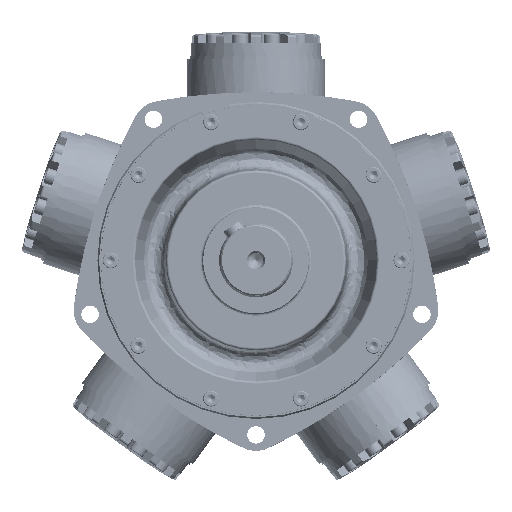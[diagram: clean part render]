
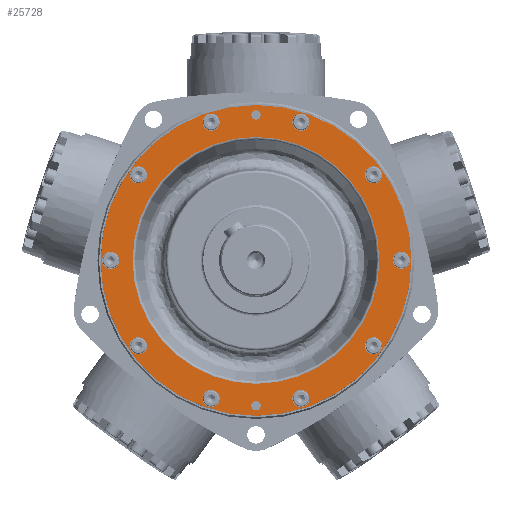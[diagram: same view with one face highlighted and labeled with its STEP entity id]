
A CAD part, top view. The second image highlights one B-rep face of the part: STEP entity #25728.
In plain terms, the highlighted planar face has unit normal (0, 0, 1).
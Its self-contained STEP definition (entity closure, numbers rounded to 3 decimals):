
#24380=CARTESIAN_POINT('',(5.664,174.625,69.152));
#24381=VERTEX_POINT('',#24380);
#24382=CARTESIAN_POINT('',(0.,174.625,69.152));
#24383=DIRECTION('',(0.0,0.0,-1.0));
#24384=DIRECTION('',(1.0,0.0,0.0));
#24385=AXIS2_PLACEMENT_3D('',#24382,#24383,#24384);
#24386=CIRCLE('',#24385,5.664);
#24387=EDGE_CURVE('',#24381,#24381,#24386,.T.);
#24429=CARTESIAN_POINT('',(5.664,-174.625,69.152));
#24430=VERTEX_POINT('',#24429);
#24431=CARTESIAN_POINT('',(0.,-174.625,69.152));
#24432=DIRECTION('',(0.0,0.0,-1.0));
#24433=DIRECTION('',(1.0,0.0,0.0));
#24434=AXIS2_PLACEMENT_3D('',#24431,#24432,#24433);
#24435=CIRCLE('',#24434,5.664);
#24436=EDGE_CURVE('',#24430,#24430,#24435,.T.);
#24487=CARTESIAN_POINT('',(57.151,-175.892,69.152));
#24488=VERTEX_POINT('',#24487);
#24489=CARTESIAN_POINT('',(53.962,-166.078,69.152));
#24490=DIRECTION('',(0.,0.,-1.));
#24491=DIRECTION('',(0.309,-0.951,0.));
#24492=AXIS2_PLACEMENT_3D('',#24489,#24490,#24491);
#24493=CIRCLE('',#24492,10.319);
#24494=EDGE_CURVE('',#24488,#24488,#24493,.T.);
#24556=CARTESIAN_POINT('',(-57.151,-175.892,69.152));
#24557=VERTEX_POINT('',#24556);
#24558=CARTESIAN_POINT('',(-53.962,-166.078,69.152));
#24559=DIRECTION('',(0.,0.,-1.));
#24560=DIRECTION('',(-0.309,-0.951,0.));
#24561=AXIS2_PLACEMENT_3D('',#24558,#24559,#24560);
#24562=CIRCLE('',#24561,10.319);
#24563=EDGE_CURVE('',#24557,#24557,#24562,.T.);
#24617=CARTESIAN_POINT('',(-149.623,-108.707,69.152));
#24618=VERTEX_POINT('',#24617);
#24619=CARTESIAN_POINT('',(-141.275,-102.642,69.152));
#24620=DIRECTION('',(0.,0.,-1.0));
#24621=DIRECTION('',(-0.809,-0.588,0.));
#24622=AXIS2_PLACEMENT_3D('',#24619,#24620,#24621);
#24623=CIRCLE('',#24622,10.319);
#24624=EDGE_CURVE('',#24618,#24618,#24623,.T.);
#24686=CARTESIAN_POINT('',(-184.944,0.,69.152));
#24687=VERTEX_POINT('',#24686);
#24688=CARTESIAN_POINT('',(-174.625,0.,69.152));
#24689=DIRECTION('',(0.0,0.0,-1.0));
#24690=DIRECTION('',(-1.0,0.0,0.0));
#24691=AXIS2_PLACEMENT_3D('',#24688,#24689,#24690);
#24692=CIRCLE('',#24691,10.319);
#24693=EDGE_CURVE('',#24687,#24687,#24692,.T.);
#24747=CARTESIAN_POINT('',(-149.623,108.707,69.152));
#24748=VERTEX_POINT('',#24747);
#24749=CARTESIAN_POINT('',(-141.275,102.642,69.152));
#24750=DIRECTION('',(0.,0.,-1.));
#24751=DIRECTION('',(-0.809,0.588,0.));
#24752=AXIS2_PLACEMENT_3D('',#24749,#24750,#24751);
#24753=CIRCLE('',#24752,10.319);
#24754=EDGE_CURVE('',#24748,#24748,#24753,.T.);
#24816=CARTESIAN_POINT('',(-57.151,175.892,69.152));
#24817=VERTEX_POINT('',#24816);
#24818=CARTESIAN_POINT('',(-53.962,166.078,69.152));
#24819=DIRECTION('',(0.,0.,-1.));
#24820=DIRECTION('',(-0.309,0.951,0.));
#24821=AXIS2_PLACEMENT_3D('',#24818,#24819,#24820);
#24822=CIRCLE('',#24821,10.319);
#24823=EDGE_CURVE('',#24817,#24817,#24822,.T.);
#24877=CARTESIAN_POINT('',(57.151,175.892,69.152));
#24878=VERTEX_POINT('',#24877);
#24879=CARTESIAN_POINT('',(53.962,166.078,69.152));
#24880=DIRECTION('',(0.,0.,-1.));
#24881=DIRECTION('',(0.309,0.951,0.));
#24882=AXIS2_PLACEMENT_3D('',#24879,#24880,#24881);
#24883=CIRCLE('',#24882,10.319);
#24884=EDGE_CURVE('',#24878,#24878,#24883,.T.);
#24946=CARTESIAN_POINT('',(149.623,108.707,69.152));
#24947=VERTEX_POINT('',#24946);
#24948=CARTESIAN_POINT('',(141.275,102.642,69.152));
#24949=DIRECTION('',(0.,0.,-1.));
#24950=DIRECTION('',(0.809,0.588,0.));
#24951=AXIS2_PLACEMENT_3D('',#24948,#24949,#24950);
#24952=CIRCLE('',#24951,10.319);
#24953=EDGE_CURVE('',#24947,#24947,#24952,.T.);
#25015=CARTESIAN_POINT('',(149.623,-108.707,69.152));
#25016=VERTEX_POINT('',#25015);
#25017=CARTESIAN_POINT('',(141.275,-102.642,69.152));
#25018=DIRECTION('',(0.,0.,-1.));
#25019=DIRECTION('',(0.809,-0.588,0.));
#25020=AXIS2_PLACEMENT_3D('',#25017,#25018,#25019);
#25021=CIRCLE('',#25020,10.319);
#25022=EDGE_CURVE('',#25016,#25016,#25021,.T.);
#25076=CARTESIAN_POINT('',(184.944,0.,69.152));
#25077=VERTEX_POINT('',#25076);
#25078=CARTESIAN_POINT('',(174.625,0.,69.152));
#25079=DIRECTION('',(0.0,0.0,-1.0));
#25080=DIRECTION('',(1.0,0.0,0.0));
#25081=AXIS2_PLACEMENT_3D('',#25078,#25079,#25080);
#25082=CIRCLE('',#25081,10.319);
#25083=EDGE_CURVE('',#25077,#25077,#25082,.T.);
#25360=CARTESIAN_POINT('',(0.,186.626,69.152));
#25361=VERTEX_POINT('',#25360);
#25362=CARTESIAN_POINT('',(0.,0.,69.152));
#25363=DIRECTION('',(0.0,0.0,1.0));
#25364=DIRECTION('',(0.0,-1.0,0.0));
#25365=AXIS2_PLACEMENT_3D('',#25362,#25363,#25364);
#25366=CIRCLE('',#25365,186.626);
#25367=EDGE_CURVE('',#25361,#25361,#25366,.T.);
#25658=CARTESIAN_POINT('',(0.,148.273,69.152));
#25659=VERTEX_POINT('',#25658);
#25660=CARTESIAN_POINT('',(0.,0.,69.152));
#25661=DIRECTION('',(0.0,0.0,1.0));
#25662=DIRECTION('',(0.0,-1.0,0.0));
#25663=AXIS2_PLACEMENT_3D('',#25660,#25661,#25662);
#25664=CIRCLE('',#25663,148.273);
#25665=EDGE_CURVE('',#25659,#25659,#25664,.T.);
#25681=CARTESIAN_POINT('',(0.,169.862,69.152));
#25682=DIRECTION('',(0.0,0.0,1.0));
#25683=DIRECTION('',(1.0,0.0,0.0));
#25684=AXIS2_PLACEMENT_3D('',#25681,#25682,#25683);
#25685=PLANE('',#25684);
#25686=ORIENTED_EDGE('',*,*,#25367,.T.);
#25687=EDGE_LOOP('',(#25686));
#25688=FACE_OUTER_BOUND('',#25687,.T.);
#25689=ORIENTED_EDGE('',*,*,#24387,.T.);
#25690=EDGE_LOOP('',(#25689));
#25691=FACE_BOUND('',#25690,.T.);
#25692=ORIENTED_EDGE('',*,*,#24436,.T.);
#25693=EDGE_LOOP('',(#25692));
#25694=FACE_BOUND('',#25693,.T.);
#25695=ORIENTED_EDGE('',*,*,#24494,.T.);
#25696=EDGE_LOOP('',(#25695));
#25697=FACE_BOUND('',#25696,.T.);
#25698=ORIENTED_EDGE('',*,*,#24563,.T.);
#25699=EDGE_LOOP('',(#25698));
#25700=FACE_BOUND('',#25699,.T.);
#25701=ORIENTED_EDGE('',*,*,#24624,.T.);
#25702=EDGE_LOOP('',(#25701));
#25703=FACE_BOUND('',#25702,.T.);
#25704=ORIENTED_EDGE('',*,*,#24693,.T.);
#25705=EDGE_LOOP('',(#25704));
#25706=FACE_BOUND('',#25705,.T.);
#25707=ORIENTED_EDGE('',*,*,#24754,.T.);
#25708=EDGE_LOOP('',(#25707));
#25709=FACE_BOUND('',#25708,.T.);
#25710=ORIENTED_EDGE('',*,*,#24823,.T.);
#25711=EDGE_LOOP('',(#25710));
#25712=FACE_BOUND('',#25711,.T.);
#25713=ORIENTED_EDGE('',*,*,#24884,.T.);
#25714=EDGE_LOOP('',(#25713));
#25715=FACE_BOUND('',#25714,.T.);
#25716=ORIENTED_EDGE('',*,*,#24953,.T.);
#25717=EDGE_LOOP('',(#25716));
#25718=FACE_BOUND('',#25717,.T.);
#25719=ORIENTED_EDGE('',*,*,#25022,.T.);
#25720=EDGE_LOOP('',(#25719));
#25721=FACE_BOUND('',#25720,.T.);
#25722=ORIENTED_EDGE('',*,*,#25083,.T.);
#25723=EDGE_LOOP('',(#25722));
#25724=FACE_BOUND('',#25723,.T.);
#25725=ORIENTED_EDGE('',*,*,#25665,.F.);
#25726=EDGE_LOOP('',(#25725));
#25727=FACE_BOUND('',#25726,.T.);
#25728=ADVANCED_FACE('',(#25688,#25691,#25694,#25697,#25700,#25703,#25706,#25709,#25712,#25715,#25718,#25721,#25724,#25727),#25685,.T.);
